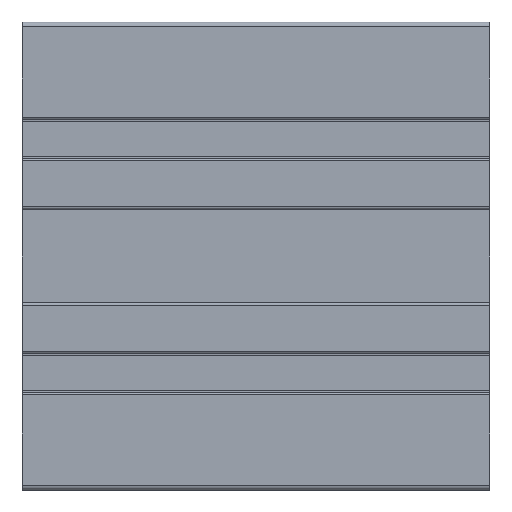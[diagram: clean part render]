
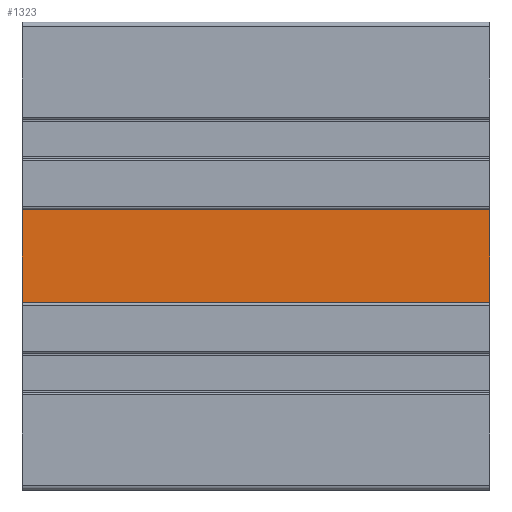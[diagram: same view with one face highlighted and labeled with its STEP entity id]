
A CAD part, front view. The second image highlights one B-rep face of the part: STEP entity #1323.
In plain terms, the highlighted planar face has unit normal (0, -1, 0).
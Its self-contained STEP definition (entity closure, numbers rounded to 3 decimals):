
#10 = EDGE_CURVE ( 'NONE', #865, #2943, #2819, .T. ) ;
#147 = ORIENTED_EDGE ( 'NONE', *, *, #465, .F. ) ;
#230 = CARTESIAN_POINT ( 'NONE',  ( 59.184, 44.398, 15.25 ) ) ;
#454 = CARTESIAN_POINT ( 'NONE',  ( 59.184, 44.398, 15.25 ) ) ;
#465 = EDGE_CURVE ( 'NONE', #865, #2527, #2032, .T. ) ;
#595 = EDGE_CURVE ( 'NONE', #2527, #2384, #4873, .T. ) ;
#693 = VECTOR ( 'NONE', #2391, 1000. ) ;
#865 = VERTEX_POINT ( 'NONE', #2208 ) ;
#1023 = PLANE ( 'NONE',  #1072 ) ;
#1072 = AXIS2_PLACEMENT_3D ( 'NONE', #230, #2191, #4039 ) ;
#1316 = FACE_OUTER_BOUND ( 'NONE', #3890, .T. ) ;
#1323 = ADVANCED_FACE ( 'NONE', ( #1316 ), #1023, .F. ) ;
#1334 = DIRECTION ( 'NONE',  ( -1., 0., 0. ) ) ;
#1665 = DIRECTION ( 'NONE',  ( 0., 0., -1. ) ) ;
#2032 = LINE ( 'NONE', #454, #3276 ) ;
#2034 = CARTESIAN_POINT ( 'NONE',  ( -40.816, 44.398, -15.25 ) ) ;
#2191 = DIRECTION ( 'NONE',  ( 0., 1., 0. ) ) ;
#2208 = CARTESIAN_POINT ( 'NONE',  ( 59.184, 44.398, 15.25 ) ) ;
#2384 = VERTEX_POINT ( 'NONE', #2034 ) ;
#2391 = DIRECTION ( 'NONE',  ( -1., 0., 0. ) ) ;
#2428 = CARTESIAN_POINT ( 'NONE',  ( 59.184, 44.398, 15.25 ) ) ;
#2527 = VERTEX_POINT ( 'NONE', #4874 ) ;
#2779 = EDGE_CURVE ( 'NONE', #2943, #2384, #4544, .T. ) ;
#2804 = CARTESIAN_POINT ( 'NONE',  ( 59.184, 44.398, -15.25 ) ) ;
#2819 = LINE ( 'NONE', #2428, #693 ) ;
#2943 = VERTEX_POINT ( 'NONE', #3202 ) ;
#3202 = CARTESIAN_POINT ( 'NONE',  ( -40.816, 44.398, 15.25 ) ) ;
#3276 = VECTOR ( 'NONE', #4258, 1000. ) ;
#3585 = ORIENTED_EDGE ( 'NONE', *, *, #2779, .T. ) ;
#3712 = ORIENTED_EDGE ( 'NONE', *, *, #595, .F. ) ;
#3753 = VECTOR ( 'NONE', #1334, 1000. ) ;
#3890 = EDGE_LOOP ( 'NONE', ( #3585, #3712, #147, #4457 ) ) ;
#4039 = DIRECTION ( 'NONE',  ( 0., 0., 1. ) ) ;
#4084 = VECTOR ( 'NONE', #1665, 1000. ) ;
#4258 = DIRECTION ( 'NONE',  ( 0., 0., -1. ) ) ;
#4297 = CARTESIAN_POINT ( 'NONE',  ( -40.816, 44.398, 15.25 ) ) ;
#4457 = ORIENTED_EDGE ( 'NONE', *, *, #10, .T. ) ;
#4544 = LINE ( 'NONE', #4297, #4084 ) ;
#4873 = LINE ( 'NONE', #2804, #3753 ) ;
#4874 = CARTESIAN_POINT ( 'NONE',  ( 59.184, 44.398, -15.25 ) ) ;
